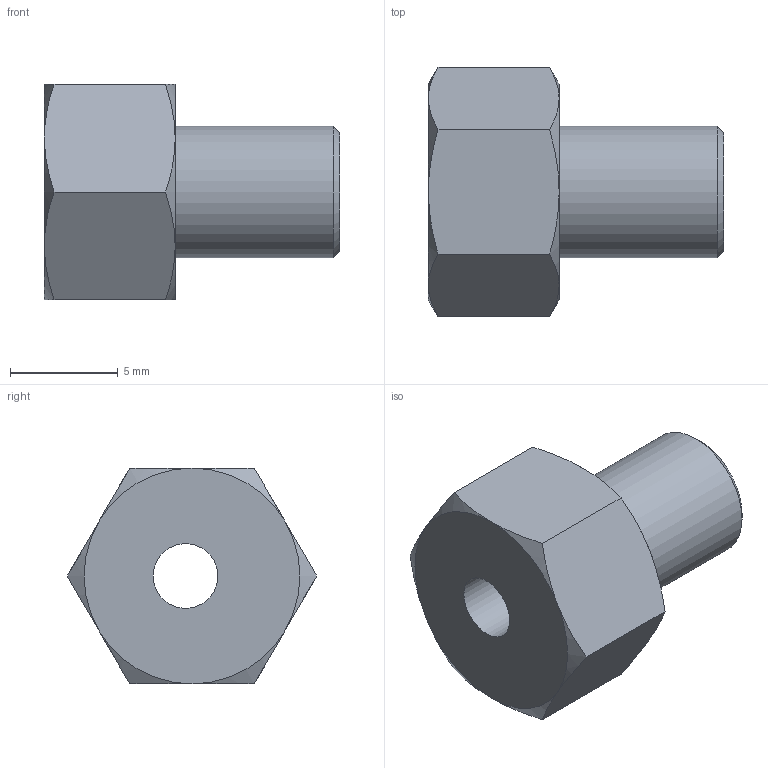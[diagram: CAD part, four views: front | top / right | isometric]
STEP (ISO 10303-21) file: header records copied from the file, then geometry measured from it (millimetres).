
FILE_DESCRIPTION((''),'2;1');
FILE_NAME('C:\Documents and Settings\土屋\My Documents\土屋移動用フォルダ\製品 (図面)\カタログ用3D\リニアガイド\VW\SB\SB1E.stp','2015-02-21T14:14:24',('y'),(''),'Autodesk Inventor 11','Autodesk Inventor 11','');
FILE_SCHEMA(('AUTOMOTIVE_DESIGN { 1 0 10303 214 1 1 1 1 }'));
Length unit declared in the file: millimetre
Products named in the file (1): SB1E
Bounding box: 13.68 x 11.55 x 10 mm (x, y, z)
Volume: 647.1 mm3; surface area: 632.1 mm2
Topology: 1 solids, 1 shells, 24 faces, 50 edges, 29 vertices
Faces by surface type: cone 13, plane 9, cylinder 2
Full cylindrical faces by diameter (mm): 3 x1, 6.09 x1
Entity records: 615 total; most frequent: CARTESIAN_POINT 149, ORIENTED_EDGE 94, DIRECTION 90, EDGE_CURVE 47, AXIS2_PLACEMENT_3D 42, EDGE_LOOP 30, VERTEX_POINT 29, FACE_OUTER_BOUND 24
